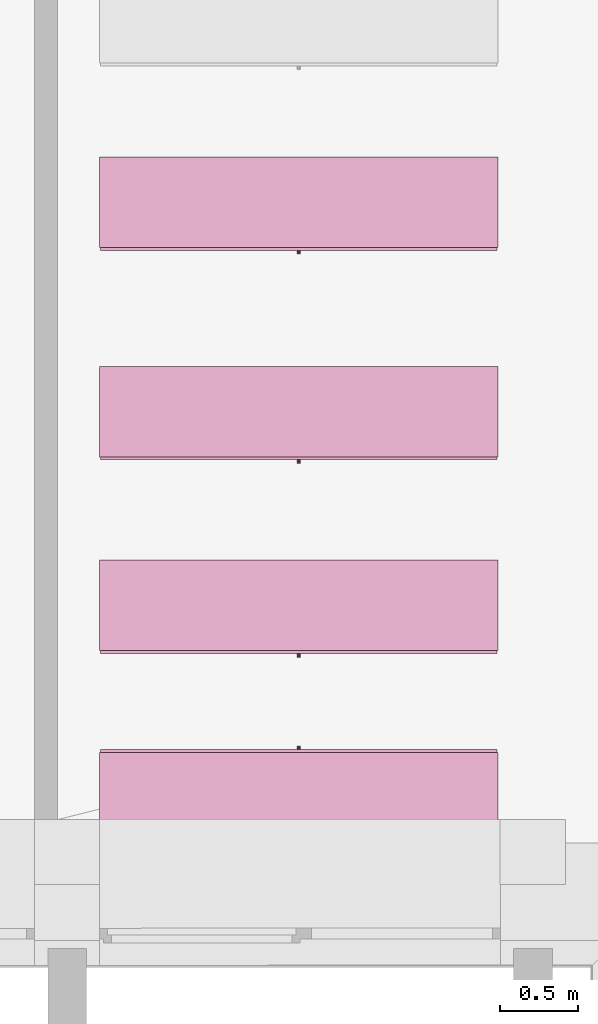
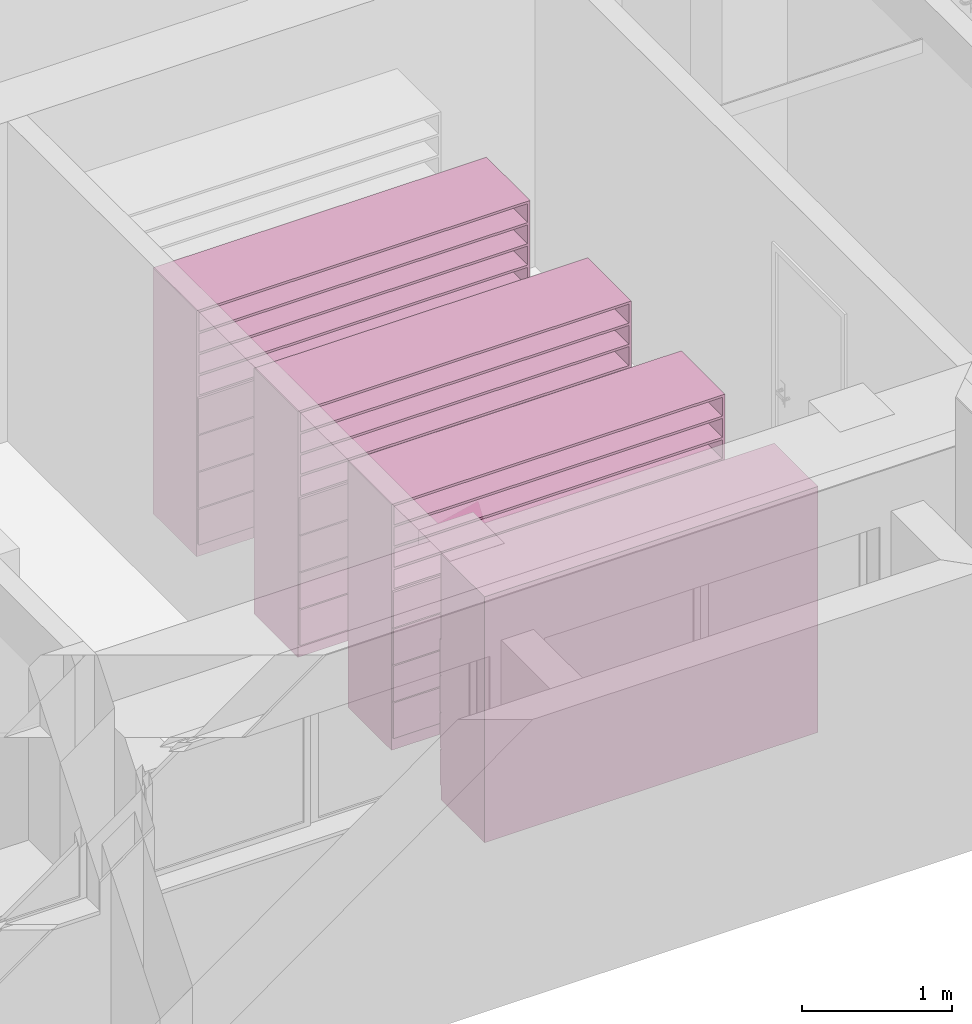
# One storey, part 94 of 127: 4 furnishings.
"""IFC2X3 building model written with IfcOpenShell, lengths in millimetres."""

from ifc_helpers import new_model, entity, si_unit, converted_unit, derived_unit, money_unit, direction, frame, origin_with_axes, place, context, subcontext, project, spatial, faceted_brep, source, transform, mapped, type_object, element, save


model = new_model("IFC2X3")

# Units and contexts
model_context = context("Model", 3, precision=1e-05, world=origin_with_axes(), true_north=direction((0.0, 1.0)))
body_context = subcontext(model_context, "Body", "Model", "MODEL_VIEW")
ifc_project = project(units=[si_unit("LENGTHUNIT", "METRE", prefix="MILLI"), si_unit("AREAUNIT", "SQUARE_METRE"), si_unit("VOLUMEUNIT", "CUBIC_METRE"), converted_unit("PLANEANGLEUNIT", "DEGREE", entity("IfcPlaneAngleMeasure", 0.0174532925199), si_unit("PLANEANGLEUNIT", "RADIAN"), dimensions=[0, 0, 0, 0, 0, 0, 0]), si_unit("SOLIDANGLEUNIT", "STERADIAN"), money_unit("EUR"), converted_unit("TIMEUNIT", "Year", entity("IfcTimeMeasure", 31556926.0), si_unit("TIMEUNIT", "SECOND"), dimensions=[0, 0, 1, 0, 0, 0, 0]), si_unit("MASSUNIT", "GRAM", prefix="KILO"), si_unit("THERMODYNAMICTEMPERATUREUNIT", "DEGREE_CELSIUS"), si_unit("LUMINOUSINTENSITYUNIT", "LUMEN"), si_unit("ENERGYUNIT", "JOULE", prefix="MEGA"), derived_unit("THERMALCONDUCTANCEUNIT", [(si_unit("POWERUNIT", "WATT"), 1), (si_unit("LENGTHUNIT", "METRE"), -1), (si_unit("THERMODYNAMICTEMPERATUREUNIT", "KELVIN"), -1)]), derived_unit("SPECIFICHEATCAPACITYUNIT", [(si_unit("ENERGYUNIT", "JOULE"), 1), (si_unit("MASSUNIT", "GRAM", prefix="KILO"), -1), (si_unit("THERMODYNAMICTEMPERATUREUNIT", "KELVIN"), -1)]), derived_unit("MASSDENSITYUNIT", [(si_unit("MASSUNIT", "GRAM", prefix="KILO"), 1), (si_unit("VOLUMEUNIT", "CUBIC_METRE"), -1)])], contexts=[model_context])

# Site, building, storey
site_placement = place(None, origin_with_axes())
site = spatial("IfcSite", under=ifc_project, at=site_placement, Name="Site", CompositionType="ELEMENT")
building_placement = place(site_placement, origin_with_axes())
building = spatial("IfcBuilding", under=site, at=building_placement, Name="Building", CompositionType="ELEMENT")
storey_placement = place(building_placement, origin_with_axes())
storey = spatial("IfcBuildingStorey", under=building, at=storey_placement, Name="1 KORRUS", CompositionType="ELEMENT", Elevation=0.0)

# Furnishings
furnishing_element_type = type_object("IfcFurnishingElementType", Name="Model Element 41")
shared_shape = source(origin_with_axes(), body_context, "Body", "Brep", [
    faceted_brep([(-2565.40668942, 19.0, 0.0), (-2565.40668942, 600.000000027, 0.0), (0.0, 600.000000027, 0.0), (0.0, 19.0, 0.0), (-2565.40668942, 19.0, 100.0), (-2565.40668942, 600.000000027, 100.0), (0.0, 600.000000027, 100.0), (0.0, 19.0, 100.0)], [[[0, 1, 2, 3]], [[0, 4, 5, 1]], [[1, 5, 6, 2]], [[2, 6, 7, 3]], [[3, 7, 4, 0]], [[7, 6, 5, 4]]]),
    faceted_brep([(-19.0, 600.000000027, 119.0), (-19.0, 600.000000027, 1981.0), (-19.0, 581.000000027, 1981.0), (-19.0, 581.000000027, 119.0), (-2546.40668942, 600.000000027, 119.0), (-2546.40668942, 600.000000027, 1981.0), (-2546.40668942, 581.000000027, 1981.0), (-2546.40668942, 581.000000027, 119.0)], [[[0, 1, 2, 3]], [[4, 5, 1, 0]], [[1, 5, 6, 2]], [[3, 2, 6, 7]], [[0, 3, 7, 4]], [[7, 6, 5, 4]]]),
    faceted_brep([(-2565.40668942, 19.0, 100.0), (-2565.40668942, 600.000000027, 100.0), (-2546.40668942, 600.000000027, 100.0), (-2546.40668942, 19.0, 100.0), (-2565.40668942, 19.0, 2000.0), (-2565.40668942, 600.000000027, 2000.0), (-2546.40668942, 600.000000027, 2000.0), (-2546.40668942, 19.0, 2000.0)], [[[0, 1, 2, 3]], [[0, 4, 5, 1]], [[1, 5, 6, 2]], [[2, 6, 7, 3]], [[3, 7, 4, 0]], [[7, 6, 5, 4]]]),
    faceted_brep([(-19.0, 19.0, 100.0), (-19.0, 600.000000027, 100.0), (0.0, 600.000000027, 100.0), (0.0, 19.0, 100.0), (-19.0, 19.0, 2000.0), (-19.0, 600.000000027, 2000.0), (0.0, 600.000000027, 2000.0), (0.0, 19.0, 2000.0)], [[[0, 1, 2, 3]], [[0, 4, 5, 1]], [[1, 5, 6, 2]], [[2, 6, 7, 3]], [[3, 7, 4, 0]], [[7, 6, 5, 4]]]),
    faceted_brep([(-2546.40668942, 19.0, 100.0), (-2546.40668942, 600.000000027, 100.0), (-19.0, 600.000000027, 100.0), (-19.0, 19.0, 100.0), (-2546.40668942, 19.0, 119.0), (-2546.40668942, 600.000000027, 119.0), (-19.0, 600.000000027, 119.0), (-19.0, 19.0, 119.0)], [[[0, 1, 2, 3]], [[0, 4, 5, 1]], [[1, 5, 6, 2]], [[2, 6, 7, 3]], [[3, 7, 4, 0]], [[7, 6, 5, 4]]]),
    faceted_brep([(-2546.40668942, 19.0, 1981.0), (-2546.40668942, 600.000000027, 1981.0), (-19.0, 600.000000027, 1981.0), (-19.0, 19.0, 1981.0), (-2546.40668942, 19.0, 2000.0), (-2546.40668942, 600.000000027, 2000.0), (-19.0, 600.000000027, 2000.0), (-19.0, 19.0, 2000.0)], [[[0, 1, 2, 3]], [[0, 4, 5, 1]], [[1, 5, 6, 2]], [[2, 6, 7, 3]], [[3, 7, 4, 0]], [[7, 6, 5, 4]]]),
    faceted_brep([(-5.0, 19.0, 105.0), (-5.0, 0.0, 105.0), (-2560.40668942, 0.0, 105.0), (-2560.40668942, 19.0, 105.0), (-5.0, 19.0, 395.0), (-5.0, 0.0, 395.0), (-2560.40668942, 0.0, 395.0), (-2560.40668942, 19.0, 395.0)], [[[0, 1, 2, 3]], [[4, 5, 1, 0]], [[1, 5, 6, 2]], [[3, 2, 6, 7]], [[0, 3, 7, 4]], [[7, 6, 5, 4]]]),
    faceted_brep([(-1293.09564955, 0.0, 244.0), (-1294.70334471, 0.0, 250.0), (-1293.09564955, 0.0, 256.0), (-1288.70334471, 0.0, 260.392304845), (-1282.70334471, 0.0, 262.0), (-1276.70334471, 0.0, 260.392304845), (-1272.31103986, 0.0, 256.0), (-1270.70334471, 0.0, 250.0), (-1272.31103986, 0.0, 244.0), (-1276.70334471, 0.0, 239.607695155), (-1282.70334471, 0.0, 238.0), (-1288.70334471, 0.0, 239.607695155), (-1293.09564955, -25.0, 244.0), (-1294.70334471, -25.0, 250.0), (-1293.09564955, -25.0, 256.0), (-1288.70334471, -25.0, 260.392304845), (-1282.70334471, -25.0, 262.0), (-1276.70334471, -25.0, 260.392304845), (-1272.31103986, -25.0, 256.0), (-1270.70334471, -25.0, 250.0), (-1272.31103986, -25.0, 244.0), (-1276.70334471, -25.0, 239.607695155), (-1282.70334471, -25.0, 238.0), (-1288.70334471, -25.0, 239.607695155)], [[[0, 1, 2, 3, 4, 5, 6, 7, 8, 9, 10, 11]], [[0, 12, 13, 1]], [[1, 13, 14, 2]], [[2, 14, 15, 3]], [[3, 15, 16, 4]], [[4, 16, 17, 5]], [[5, 17, 18, 6]], [[6, 18, 19, 7]], [[7, 19, 20, 8]], [[8, 20, 21, 9]], [[9, 21, 22, 10]], [[10, 22, 23, 11]], [[11, 23, 12, 0]], [[12, 23, 22, 21, 20, 19, 18, 17, 16, 15, 14, 13]]]),
    faceted_brep([(-5.0, 19.0, 405.0), (-5.0, 0.0, 405.0), (-2560.40668942, 0.0, 405.0), (-2560.40668942, 19.0, 405.0), (-5.0, 19.0, 695.0), (-5.0, 0.0, 695.0), (-2560.40668942, 0.0, 695.0), (-2560.40668942, 19.0, 695.0)], [[[0, 1, 2, 3]], [[4, 5, 1, 0]], [[1, 5, 6, 2]], [[3, 2, 6, 7]], [[0, 3, 7, 4]], [[7, 6, 5, 4]]]),
    faceted_brep([(-1293.09564955, 0.0, 544.0), (-1294.70334471, 0.0, 550.0), (-1293.09564955, 0.0, 556.0), (-1288.70334471, 0.0, 560.392304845), (-1282.70334471, 0.0, 562.0), (-1276.70334471, 0.0, 560.392304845), (-1272.31103986, 0.0, 556.0), (-1270.70334471, 0.0, 550.0), (-1272.31103986, 0.0, 544.0), (-1276.70334471, 0.0, 539.607695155), (-1282.70334471, 0.0, 538.0), (-1288.70334471, 0.0, 539.607695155), (-1293.09564955, -25.0, 544.0), (-1294.70334471, -25.0, 550.0), (-1293.09564955, -25.0, 556.0), (-1288.70334471, -25.0, 560.392304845), (-1282.70334471, -25.0, 562.0), (-1276.70334471, -25.0, 560.392304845), (-1272.31103986, -25.0, 556.0), (-1270.70334471, -25.0, 550.0), (-1272.31103986, -25.0, 544.0), (-1276.70334471, -25.0, 539.607695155), (-1282.70334471, -25.0, 538.0), (-1288.70334471, -25.0, 539.607695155)], [[[0, 1, 2, 3, 4, 5, 6, 7, 8, 9, 10, 11]], [[0, 12, 13, 1]], [[1, 13, 14, 2]], [[2, 14, 15, 3]], [[3, 15, 16, 4]], [[4, 16, 17, 5]], [[5, 17, 18, 6]], [[6, 18, 19, 7]], [[7, 19, 20, 8]], [[8, 20, 21, 9]], [[9, 21, 22, 10]], [[10, 22, 23, 11]], [[11, 23, 12, 0]], [[12, 23, 22, 21, 20, 19, 18, 17, 16, 15, 14, 13]]]),
    faceted_brep([(-5.0, 19.0, 705.0), (-5.0, 0.0, 705.0), (-2560.40668942, 0.0, 705.0), (-2560.40668942, 19.0, 705.0), (-5.0, 19.0, 995.0), (-5.0, 0.0, 995.0), (-2560.40668942, 0.0, 995.0), (-2560.40668942, 19.0, 995.0)], [[[0, 1, 2, 3]], [[4, 5, 1, 0]], [[1, 5, 6, 2]], [[3, 2, 6, 7]], [[0, 3, 7, 4]], [[7, 6, 5, 4]]]),
    faceted_brep([(-1293.09564955, 0.0, 844.0), (-1294.70334471, 0.0, 850.0), (-1293.09564955, 0.0, 856.0), (-1288.70334471, 0.0, 860.392304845), (-1282.70334471, 0.0, 862.0), (-1276.70334471, 0.0, 860.392304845), (-1272.31103986, 0.0, 856.0), (-1270.70334471, 0.0, 850.0), (-1272.31103986, 0.0, 844.0), (-1276.70334471, 0.0, 839.607695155), (-1282.70334471, 0.0, 838.0), (-1288.70334471, 0.0, 839.607695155), (-1293.09564955, -25.0, 844.0), (-1294.70334471, -25.0, 850.0), (-1293.09564955, -25.0, 856.0), (-1288.70334471, -25.0, 860.392304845), (-1282.70334471, -25.0, 862.0), (-1276.70334471, -25.0, 860.392304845), (-1272.31103986, -25.0, 856.0), (-1270.70334471, -25.0, 850.0), (-1272.31103986, -25.0, 844.0), (-1276.70334471, -25.0, 839.607695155), (-1282.70334471, -25.0, 838.0), (-1288.70334471, -25.0, 839.607695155)], [[[0, 1, 2, 3, 4, 5, 6, 7, 8, 9, 10, 11]], [[0, 12, 13, 1]], [[1, 13, 14, 2]], [[2, 14, 15, 3]], [[3, 15, 16, 4]], [[4, 16, 17, 5]], [[5, 17, 18, 6]], [[6, 18, 19, 7]], [[7, 19, 20, 8]], [[8, 20, 21, 9]], [[9, 21, 22, 10]], [[10, 22, 23, 11]], [[11, 23, 12, 0]], [[12, 23, 22, 21, 20, 19, 18, 17, 16, 15, 14, 13]]]),
    faceted_brep([(-5.0, 19.0, 1005.0), (-5.0, 0.0, 1005.0), (-2560.40668942, 0.0, 1005.0), (-2560.40668942, 19.0, 1005.0), (-5.0, 19.0, 1295.0), (-5.0, 0.0, 1295.0), (-2560.40668942, 0.0, 1295.0), (-2560.40668942, 19.0, 1295.0)], [[[0, 1, 2, 3]], [[4, 5, 1, 0]], [[1, 5, 6, 2]], [[3, 2, 6, 7]], [[0, 3, 7, 4]], [[7, 6, 5, 4]]]),
    faceted_brep([(-1293.09564955, 0.0, 1144.0), (-1294.70334471, 0.0, 1150.0), (-1293.09564955, 0.0, 1156.0), (-1288.70334471, 0.0, 1160.39230485), (-1282.70334471, 0.0, 1162.0), (-1276.70334471, 0.0, 1160.39230485), (-1272.31103986, 0.0, 1156.0), (-1270.70334471, 0.0, 1150.0), (-1272.31103986, 0.0, 1144.0), (-1276.70334471, 0.0, 1139.60769515), (-1282.70334471, 0.0, 1138.0), (-1288.70334471, 0.0, 1139.60769515), (-1293.09564955, -25.0, 1144.0), (-1294.70334471, -25.0, 1150.0), (-1293.09564955, -25.0, 1156.0), (-1288.70334471, -25.0, 1160.39230485), (-1282.70334471, -25.0, 1162.0), (-1276.70334471, -25.0, 1160.39230485), (-1272.31103986, -25.0, 1156.0), (-1270.70334471, -25.0, 1150.0), (-1272.31103986, -25.0, 1144.0), (-1276.70334471, -25.0, 1139.60769515), (-1282.70334471, -25.0, 1138.0), (-1288.70334471, -25.0, 1139.60769515)], [[[0, 1, 2, 3, 4, 5, 6, 7, 8, 9, 10, 11]], [[0, 12, 13, 1]], [[1, 13, 14, 2]], [[2, 14, 15, 3]], [[3, 15, 16, 4]], [[4, 16, 17, 5]], [[5, 17, 18, 6]], [[6, 18, 19, 7]], [[7, 19, 20, 8]], [[8, 20, 21, 9]], [[9, 21, 22, 10]], [[10, 22, 23, 11]], [[11, 23, 12, 0]], [[12, 23, 22, 21, 20, 19, 18, 17, 16, 15, 14, 13]]]),
    faceted_brep([(-19.0, 19.0, 390.5), (-19.0, 19.0, 409.5), (-2546.40668942, 19.0, 409.5), (-2546.40668942, 19.0, 390.5), (-19.0, 581.000000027, 390.5), (-19.0, 581.000000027, 409.5), (-2546.40668942, 581.000000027, 409.5), (-2546.40668942, 581.000000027, 390.5)], [[[0, 1, 2, 3]], [[4, 5, 1, 0]], [[1, 5, 6, 2]], [[3, 2, 6, 7]], [[0, 3, 7, 4]], [[7, 6, 5, 4]]]),
    faceted_brep([(-19.0, 19.0, 690.5), (-19.0, 19.0, 709.5), (-2546.40668942, 19.0, 709.5), (-2546.40668942, 19.0, 690.5), (-19.0, 581.000000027, 690.5), (-19.0, 581.000000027, 709.5), (-2546.40668942, 581.000000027, 709.5), (-2546.40668942, 581.000000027, 690.5)], [[[0, 1, 2, 3]], [[4, 5, 1, 0]], [[1, 5, 6, 2]], [[3, 2, 6, 7]], [[0, 3, 7, 4]], [[7, 6, 5, 4]]]),
    faceted_brep([(-19.0, 19.0, 990.5), (-19.0, 19.0, 1009.5), (-2546.40668942, 19.0, 1009.5), (-2546.40668942, 19.0, 990.5), (-19.0, 581.000000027, 990.5), (-19.0, 581.000000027, 1009.5), (-2546.40668942, 581.000000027, 1009.5), (-2546.40668942, 581.000000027, 990.5)], [[[0, 1, 2, 3]], [[4, 5, 1, 0]], [[1, 5, 6, 2]], [[3, 2, 6, 7]], [[0, 3, 7, 4]], [[7, 6, 5, 4]]]),
    faceted_brep([(-19.0, 19.0, 1290.5), (-19.0, 19.0, 1309.5), (-2546.40668942, 19.0, 1309.5), (-2546.40668942, 19.0, 1290.5), (-19.0, 581.000000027, 1290.5), (-19.0, 581.000000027, 1309.5), (-2546.40668942, 581.000000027, 1309.5), (-2546.40668942, 581.000000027, 1290.5)], [[[0, 1, 2, 3]], [[4, 5, 1, 0]], [[1, 5, 6, 2]], [[3, 2, 6, 7]], [[0, 3, 7, 4]], [[7, 6, 5, 4]]]),
    faceted_brep([(-2546.40668942, 19.0, 1463.125), (-2546.40668942, 581.000000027, 1463.125), (-19.0, 581.000000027, 1463.125), (-19.0, 19.0, 1463.125), (-2546.40668942, 19.0, 1482.125), (-2546.40668942, 581.000000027, 1482.125), (-19.0, 581.000000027, 1482.125), (-19.0, 19.0, 1482.125)], [[[0, 1, 2, 3]], [[0, 4, 5, 1]], [[1, 5, 6, 2]], [[2, 6, 7, 3]], [[3, 7, 4, 0]], [[7, 6, 5, 4]]]),
    faceted_brep([(-2546.40668942, 19.0, 1635.75), (-2546.40668942, 581.000000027, 1635.75), (-19.0, 581.000000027, 1635.75), (-19.0, 19.0, 1635.75), (-2546.40668942, 19.0, 1654.75), (-2546.40668942, 581.000000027, 1654.75), (-19.0, 581.000000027, 1654.75), (-19.0, 19.0, 1654.75)], [[[0, 1, 2, 3]], [[0, 4, 5, 1]], [[1, 5, 6, 2]], [[2, 6, 7, 3]], [[3, 7, 4, 0]], [[7, 6, 5, 4]]]),
    faceted_brep([(-2546.40668942, 19.0, 1808.375), (-2546.40668942, 581.000000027, 1808.375), (-19.0, 581.000000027, 1808.375), (-19.0, 19.0, 1808.375), (-2546.40668942, 19.0, 1827.375), (-2546.40668942, 581.000000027, 1827.375), (-19.0, 581.000000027, 1827.375), (-19.0, 19.0, 1827.375)], [[[0, 1, 2, 3]], [[0, 4, 5, 1]], [[1, 5, 6, 2]], [[2, 6, 7, 3]], [[3, 7, 4, 0]], [[7, 6, 5, 4]]]),
])
for number, where, z_axis, x_axis, name in (
    (1, (34154.7244802, 60188.6795598, 0.0), (0.0, 0.0, 1.0), (-1.0, 0.0, 0.0), "FU - 003"),
    (2, (36720.1311695, 60808.8556344, 0.0), (0.0, 0.0, 1.0), (1.0, 0.0, 0.0), "FU - 003"),
    (3, (36720.1311695, 62056.253304, 0.0), (0.0, 0.0, 1.0), (1.0, 0.0, 0.0), "FU - 003"),
    (4, (36720.1311695, 63404.9964912, 0.0), (0.0, 0.0, 1.0), (1.0, 0.0, 0.0), "FU - 003"),
):
    element("IfcFurnishingElement", number, at=place(storey_placement, frame(where, z_axis=z_axis, x_axis=x_axis)), inside=storey, type_object=furnishing_element_type, Name=name, context=body_context, shape_type="MappedRepresentation", body=[
        mapped(shared_shape, transform((0.0, 0.0, 0.0))),
    ])

save(model, "model.ifc")
